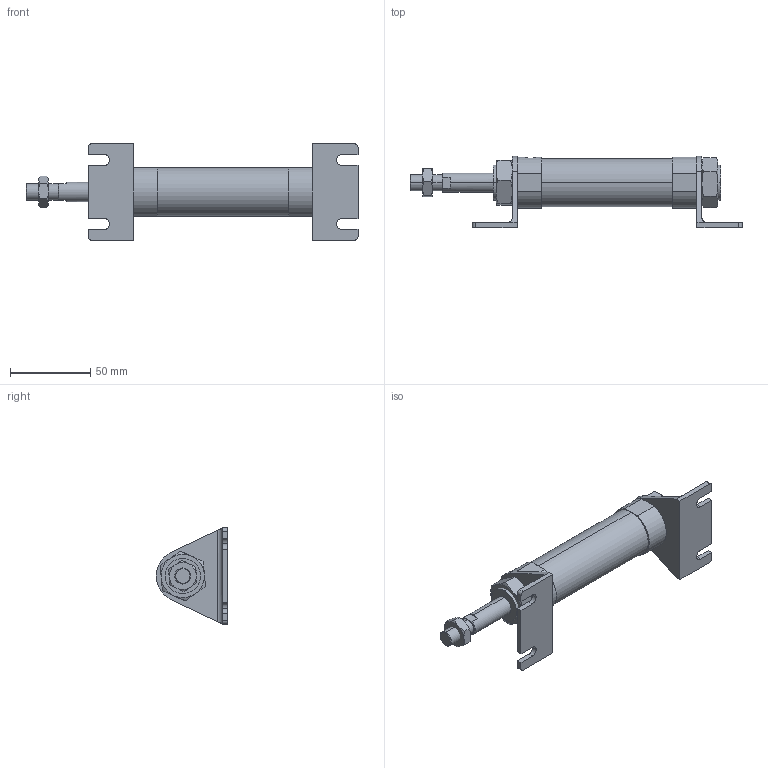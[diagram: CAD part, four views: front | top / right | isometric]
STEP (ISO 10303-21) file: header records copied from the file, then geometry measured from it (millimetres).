
FILE_DESCRIPTION (( 'STEP AP203' ), '1' );
FILE_NAME ('J#0-25-25-L.STEP', '2016-03-10T00:43:47', ( '' ), ( '' ), 'SwSTEP 2.0', 'SolidWorks 2014', '' );
FILE_SCHEMA (( 'CONFIG_CONTROL_DESIGN' ));
Length unit declared in the file: millimetre
Products named in the file (5): J#0-25-25-L; J#2-25-L; J#0-25-25
Assembly tree (6 placements, depth 2):
  J#0-25-25-L
    J#0-25-25
    (unnamed)
    (unnamed)  x2
    J#2-25-L  x2
Bounding box: 207.2 x 44.5 x 60 mm (x, y, z)
Volume: 122062 mm3; surface area: 35123.5 mm2
Topology: 6 solids, 6 shells, 167 faces, 392 edges, 241 vertices
Faces by surface type: plane 75, cylinder 48, torus 36, cone 8
Entity records: 4187 total; most frequent: CARTESIAN_POINT 947, DIRECTION 572, ORIENTED_EDGE 544, EDGE_CURVE 272, AXIS2_PLACEMENT_3D 228, VERTEX_POINT 167, EDGE_LOOP 131, FACE_OUTER_BOUND 119
